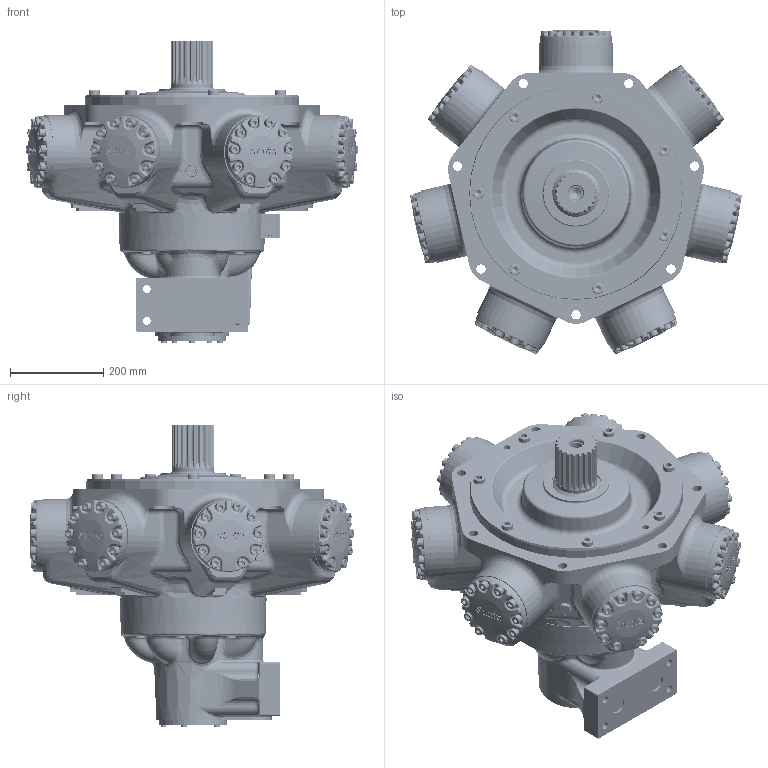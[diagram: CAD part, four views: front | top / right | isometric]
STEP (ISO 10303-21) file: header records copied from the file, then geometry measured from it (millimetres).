
FILE_DESCRIPTION(/* description */ (''),/* implementation_level */ '2;1');
FILE_NAME(/* name */ 'HMC270_Z_SM4_C.stp',/* time_stamp */ '2025-06-16T14:46:53+01:00',/* author */ ('ccallanga'),/* organization */ (''),/* preprocessor_version */ 'ST-DEVELOPER v20',/* originating_system */ 'Autodesk Inventor 2024',/* authorisation */ '');
FILE_SCHEMA (('AUTOMOTIVE_DESIGN { 1 0 10303 214 3 1 1 }'));
Products named in the file (1): 017752 HMC270 Web Assembly_Simplify_1
Bounding box: 711.04 x 695.71 x 648.79 mm (x, y, z)
Volume: 73114114.7 mm3; surface area: 1697033.8 mm2
Topology: 1 solids, 1 shells, 6922 faces, 17034 edges, 10189 vertices
Faces by surface type: bspline 2703, plane 2035, cylinder 1311, torus 523, sphere 176, cone 174
Full cylindrical faces by diameter (mm): 2.2 x4, 4 x1, 4.134 x4, 5.5 x4, 6.05 x2, 11.913 x5, 12.7 x5, 14.351 x2, 16.51 x1, 17 x4, 19 x1, 19.05 x70, 20 x7, 20.637 x70, 23.825 x14, 25 x5, 25.4 x14, 26.211 x1, 26.92 x2, 30.48 x1, 38 x2, 38.1 x3, 90 x1, 101.575 x1, 106.68 x1, 139.7 x1, 146.05 x1, 311 x1, 311.15 x1, 457.11 x1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
Entity records: 305237 total; most frequent: CARTESIAN_POINT 155409, ORIENTED_EDGE 33450, DIRECTION 23306, EDGE_CURVE 16725, VERTEX_POINT 10189, AXIS2_PLACEMENT_3D 8717, EDGE_LOOP 7328, STYLED_ITEM 6923
